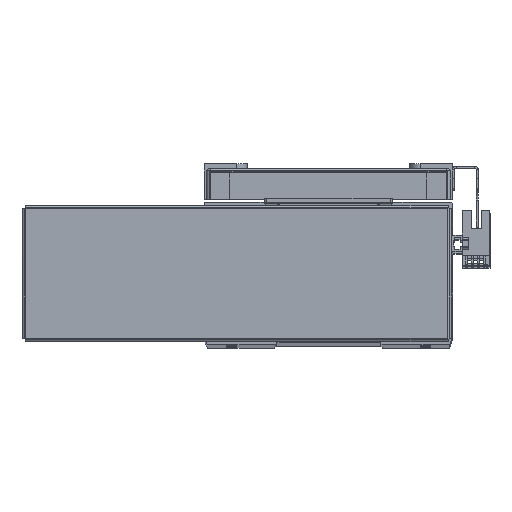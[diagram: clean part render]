
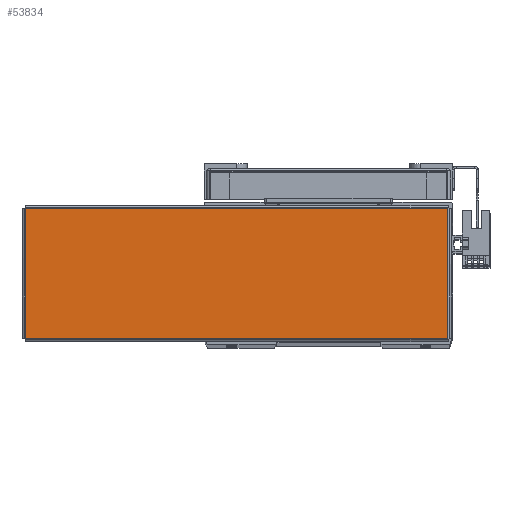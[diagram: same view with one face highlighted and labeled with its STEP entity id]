
A CAD part, top view. The second image highlights one B-rep face of the part: STEP entity #53834.
In plain terms, the highlighted planar face has unit normal (0, 0, 1) as drawn and (0, -1, 0) by its records, which use the part's own axes.
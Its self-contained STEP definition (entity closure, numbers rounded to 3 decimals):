
#553 = CARTESIAN_POINT ( 'NONE',  ( -103.763, -1., 31.793 ) ) ;
#559 = DIRECTION ( 'NONE',  ( 0., 0., -1. ) ) ;
#683 = DIRECTION ( 'NONE',  ( 0., 0., 1. ) ) ;
#694 = CARTESIAN_POINT ( 'NONE',  ( 103.763, -1., -31.793 ) ) ;
#719 = CARTESIAN_POINT ( 'NONE',  ( -103.793, -1., -31.763 ) ) ;
#722 = DIRECTION ( 'NONE',  ( 1., 0., 0. ) ) ;
#778 = CARTESIAN_POINT ( 'NONE',  ( 103.793, -1., 31.763 ) ) ;
#796 = DIRECTION ( 'NONE',  ( -1., 0., 0. ) ) ;
#7038 = CARTESIAN_POINT ( 'NONE',  ( -103.763, -1., -31.763 ) ) ;
#7075 = CARTESIAN_POINT ( 'NONE',  ( 103.763, -1., 31.763 ) ) ;
#7093 = CARTESIAN_POINT ( 'NONE',  ( 103.763, -1., -31.763 ) ) ;
#7132 = CARTESIAN_POINT ( 'NONE',  ( -103.763, -1., 31.763 ) ) ;
#7543 = AXIS2_PLACEMENT_3D ( 'NONE', #44513, #44521, #44452 ) ;
#10391 = EDGE_CURVE ( 'NONE', #23951, #23783, #25334, .T. ) ;
#10431 = EDGE_CURVE ( 'NONE', #23832, #23826, #25342, .T. ) ;
#10436 = EDGE_CURVE ( 'NONE', #23783, #23832, #25562, .T. ) ;
#10463 = EDGE_CURVE ( 'NONE', #23826, #23951, #25560, .T. ) ;
#23783 = VERTEX_POINT ( 'NONE', #7038 ) ;
#23826 = VERTEX_POINT ( 'NONE', #7075 ) ;
#23832 = VERTEX_POINT ( 'NONE', #7093 ) ;
#23951 = VERTEX_POINT ( 'NONE', #7132 ) ;
#25334 = LINE ( 'NONE', #553, #25394 ) ;
#25342 = LINE ( 'NONE', #694, #25344 ) ;
#25344 = VECTOR ( 'NONE', #683, 1000. ) ;
#25394 = VECTOR ( 'NONE', #559, 1000. ) ;
#25460 = VECTOR ( 'NONE', #722, 1000. ) ;
#25560 = LINE ( 'NONE', #778, #25574 ) ;
#25562 = LINE ( 'NONE', #719, #25460 ) ;
#25574 = VECTOR ( 'NONE', #796, 1000. ) ;
#38022 = ORIENTED_EDGE ( 'NONE', *, *, #10463, .T. ) ;
#38030 = ORIENTED_EDGE ( 'NONE', *, *, #10391, .T. ) ;
#38051 = ORIENTED_EDGE ( 'NONE', *, *, #10436, .T. ) ;
#38096 = ORIENTED_EDGE ( 'NONE', *, *, #10431, .T. ) ;
#44440 = PLANE ( 'NONE',  #7543 ) ;
#44452 = DIRECTION ( 'NONE',  ( 0., 0., 1. ) ) ;
#44513 = CARTESIAN_POINT ( 'NONE',  ( 0., -1., 0. ) ) ;
#44521 = DIRECTION ( 'NONE',  ( 0., 1., 0. ) ) ;
#44635 = FACE_OUTER_BOUND ( 'NONE', #48893, .T. ) ;
#48893 = EDGE_LOOP ( 'NONE', ( #38022, #38030, #38051, #38096 ) ) ;
#53834 = ADVANCED_FACE ( 'NONE', ( #44635 ), #44440, .F. ) ;
